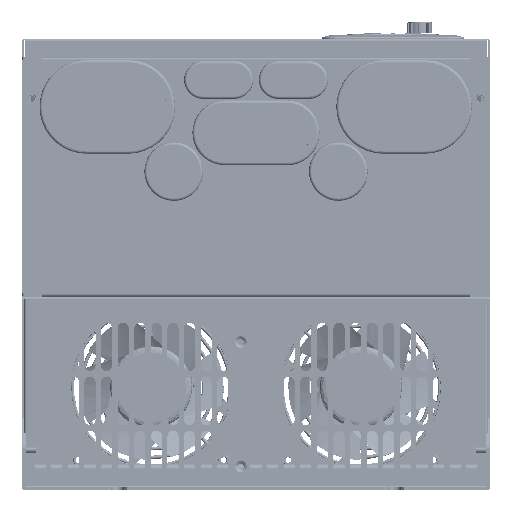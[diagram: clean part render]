
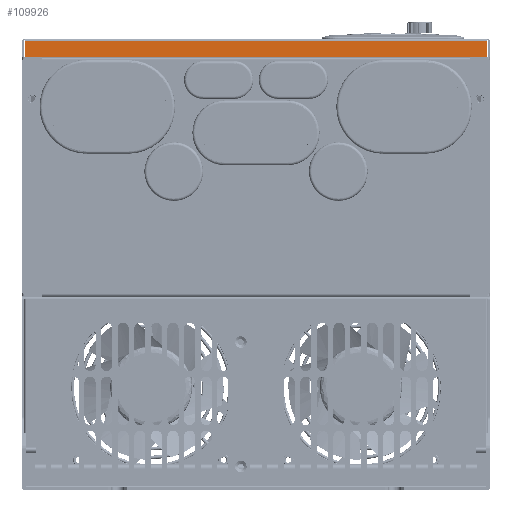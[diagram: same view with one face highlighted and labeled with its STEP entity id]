
A CAD part, front view. The second image highlights one B-rep face of the part: STEP entity #109926.
In plain terms, the highlighted planar face has unit normal (0, -1, 0).
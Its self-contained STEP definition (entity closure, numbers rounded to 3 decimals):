
#108829=DIRECTION('',(-1.,0.,0.));
#108830=VECTOR('',#108829,334.6);
#108831=CARTESIAN_POINT('',(167.3,-147.9,-0.5));
#108832=LINE('',#108831,#108830);
#108837=DIRECTION('',(0.,0.,-1.));
#108838=VECTOR('',#108837,11.3);
#108839=CARTESIAN_POINT('',(-167.3,-147.9,-0.5));
#108840=LINE('',#108839,#108838);
#108845=DIRECTION('',(1.,0.,0.));
#108846=VECTOR('',#108845,334.6);
#108847=CARTESIAN_POINT('',(-167.3,-147.9,-11.8));
#108848=LINE('',#108847,#108846);
#108853=DIRECTION('',(0.,0.,1.));
#108854=VECTOR('',#108853,11.3);
#108855=CARTESIAN_POINT('',(167.3,-147.9,-11.8));
#108856=LINE('',#108855,#108854);
#109456=CARTESIAN_POINT('',(167.3,-147.9,-0.5));
#109457=VERTEX_POINT('',#109456);
#109460=CARTESIAN_POINT('',(-167.3,-147.9,-0.5));
#109461=VERTEX_POINT('',#109460);
#109464=CARTESIAN_POINT('',(-167.3,-147.9,-11.8));
#109465=VERTEX_POINT('',#109464);
#109466=CARTESIAN_POINT('',(167.3,-147.9,-11.8));
#109467=VERTEX_POINT('',#109466);
#109912=CARTESIAN_POINT('',(-167.3,-147.9,1.2));
#109913=DIRECTION('',(0.,-1.,0.));
#109914=DIRECTION('',(-1.,0.,0.));
#109915=AXIS2_PLACEMENT_3D('',#109912,#109913,#109914);
#109916=PLANE('',#109915);
#109918=ORIENTED_EDGE('',*,*,#109917,.F.);
#109919=ORIENTED_EDGE('',*,*,#109902,.F.);
#109921=ORIENTED_EDGE('',*,*,#109920,.F.);
#109923=ORIENTED_EDGE('',*,*,#109922,.F.);
#109924=EDGE_LOOP('',(#109918,#109919,#109921,#109923));
#109925=FACE_OUTER_BOUND('',#109924,.F.);
#109926=ADVANCED_FACE('',(#109925),#109916,.T.);
#109902=EDGE_CURVE('',#109457,#109461,#108832,.T.);
#109917=EDGE_CURVE('',#109461,#109465,#108840,.T.);
#109920=EDGE_CURVE('',#109467,#109457,#108856,.T.);
#109922=EDGE_CURVE('',#109465,#109467,#108848,.T.);
